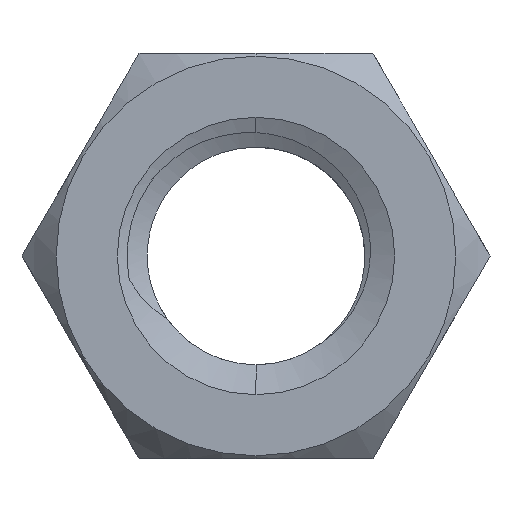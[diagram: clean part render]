
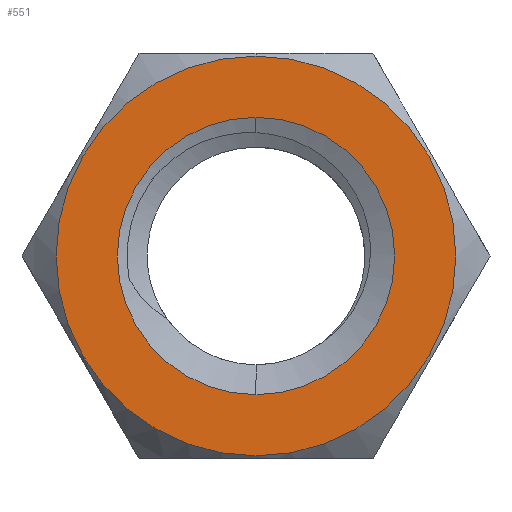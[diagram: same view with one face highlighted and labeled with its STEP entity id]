
A CAD part, front view. The second image highlights one B-rep face of the part: STEP entity #551.
In plain terms, the highlighted planar face has unit normal (0, -1, 0).
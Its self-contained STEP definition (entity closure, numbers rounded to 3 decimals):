
#22 = ORIENTED_EDGE ( 'NONE', *, *, #703, .T. ) ;
#36 = EDGE_LOOP ( 'NONE', ( #59, #22 ) ) ;
#49 = CARTESIAN_POINT ( 'NONE',  ( 0., -2.9, 0. ) ) ;
#59 = ORIENTED_EDGE ( 'NONE', *, *, #998, .T. ) ;
#141 = ORIENTED_EDGE ( 'NONE', *, *, #909, .F. ) ;
#187 = CIRCLE ( 'NONE', #1327, 9.37 ) ;
#198 = ORIENTED_EDGE ( 'NONE', *, *, #587, .F. ) ;
#220 = CARTESIAN_POINT ( 'NONE',  ( 0., -2.9, -9.37 ) ) ;
#254 = CARTESIAN_POINT ( 'NONE',  ( 0., -2.9, 0. ) ) ;
#307 = VERTEX_POINT ( 'NONE', #1960 ) ;
#340 = CARTESIAN_POINT ( 'NONE',  ( 0., -2.9, 0. ) ) ;
#392 = DIRECTION ( 'NONE',  ( 0., -1., 0. ) ) ;
#442 = CIRCLE ( 'NONE', #959, 6.5 ) ;
#551 = ADVANCED_FACE ( 'NONE', ( #1113, #649 ), #1735, .F. ) ;
#574 = CIRCLE ( 'NONE', #896, 6.5 ) ;
#587 = EDGE_CURVE ( 'NONE', #307, #745, #574, .T. ) ;
#608 = AXIS2_PLACEMENT_3D ( 'NONE', #697, #1499, #1781 ) ;
#649 = FACE_OUTER_BOUND ( 'NONE', #36, .T. ) ;
#667 = DIRECTION ( 'NONE',  ( 0., -1., 0. ) ) ;
#697 = CARTESIAN_POINT ( 'NONE',  ( 0., -2.9, 0. ) ) ;
#703 = EDGE_CURVE ( 'NONE', #1526, #1215, #187, .T. ) ;
#745 = VERTEX_POINT ( 'NONE', #1654 ) ;
#783 = DIRECTION ( 'NONE',  ( 0., 0., -1. ) ) ;
#805 = DIRECTION ( 'NONE',  ( 0., 0., 1. ) ) ;
#869 = DIRECTION ( 'NONE',  ( 0., 0., -1. ) ) ;
#896 = AXIS2_PLACEMENT_3D ( 'NONE', #49, #667, #1285 ) ;
#909 = EDGE_CURVE ( 'NONE', #745, #307, #442, .T. ) ;
#929 = AXIS2_PLACEMENT_3D ( 'NONE', #340, #957, #805 ) ;
#957 = DIRECTION ( 'NONE',  ( 0., 1., 0. ) ) ;
#959 = AXIS2_PLACEMENT_3D ( 'NONE', #1724, #1281, #783 ) ;
#998 = EDGE_CURVE ( 'NONE', #1215, #1526, #1483, .T. ) ;
#1113 = FACE_BOUND ( 'NONE', #1389, .T. ) ;
#1201 = CARTESIAN_POINT ( 'NONE',  ( 0., -2.9, 9.37 ) ) ;
#1215 = VERTEX_POINT ( 'NONE', #1201 ) ;
#1281 = DIRECTION ( 'NONE',  ( 0., -1., 0. ) ) ;
#1285 = DIRECTION ( 'NONE',  ( 0., 0., -1. ) ) ;
#1327 = AXIS2_PLACEMENT_3D ( 'NONE', #254, #392, #869 ) ;
#1389 = EDGE_LOOP ( 'NONE', ( #198, #141 ) ) ;
#1483 = CIRCLE ( 'NONE', #608, 9.37 ) ;
#1499 = DIRECTION ( 'NONE',  ( 0., -1., 0. ) ) ;
#1526 = VERTEX_POINT ( 'NONE', #220 ) ;
#1654 = CARTESIAN_POINT ( 'NONE',  ( 0., -2.9, -6.5 ) ) ;
#1724 = CARTESIAN_POINT ( 'NONE',  ( 0., -2.9, 0. ) ) ;
#1735 = PLANE ( 'NONE',  #929 ) ;
#1781 = DIRECTION ( 'NONE',  ( 0., 0., -1. ) ) ;
#1960 = CARTESIAN_POINT ( 'NONE',  ( 0., -2.9, 6.5 ) ) ;
